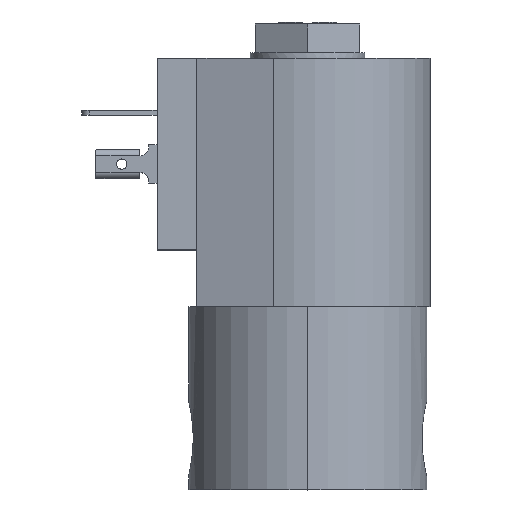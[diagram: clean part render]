
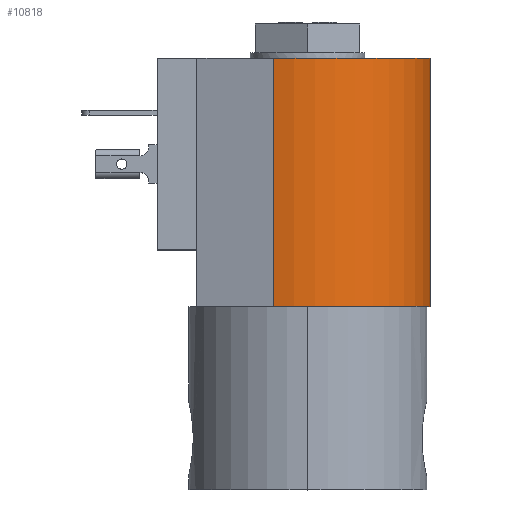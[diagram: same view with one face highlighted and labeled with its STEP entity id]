
A CAD part, top view. The second image highlights one B-rep face of the part: STEP entity #10818.
In plain terms, the highlighted cylindrical face has radius 20.32 mm (diameter 40.64 mm), a partial arc.
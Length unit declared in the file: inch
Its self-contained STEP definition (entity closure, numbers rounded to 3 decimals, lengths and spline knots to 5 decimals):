
#986 = CARTESIAN_POINT ( 'NONE',  ( -0.22081, 2.815, 0.76892 ) ) ;
#1030 = ORIENTED_EDGE ( 'NONE', *, *, #1945, .T. ) ;
#1787 = CARTESIAN_POINT ( 'NONE',  ( -0.22081, 1.195, 0.76892 ) ) ;
#1945 = EDGE_CURVE ( 'Defeatured_0_32+Defeatured_0_31+Defeatured_0_0+Defeatured_0_34', #8199, #8000, #9528, .T. ) ;
#2304 = EDGE_CURVE ( 'NONE', #6406, #13379, #9909, .T. ) ;
#3604 = DIRECTION ( 'NONE',  ( 0., 1., 0. ) ) ;
#3671 = CIRCLE ( 'NONE', #8905, 0.8 ) ;
#4420 = CIRCLE ( 'NONE', #12347, 0.8 ) ;
#4595 = CARTESIAN_POINT ( 'NONE',  ( 0.8, 2.815, 0. ) ) ;
#5140 = DIRECTION ( 'NONE',  ( 0., -1., 0. ) ) ;
#6406 = VERTEX_POINT ( 'NONE', #6631 ) ;
#6436 = FACE_OUTER_BOUND ( 'NONE', #11513, .T. ) ;
#6631 = CARTESIAN_POINT ( 'NONE',  ( 0.8, 2.815, 0. ) ) ;
#6728 = DIRECTION ( 'NONE',  ( -1., 0., 0. ) ) ;
#7259 = CARTESIAN_POINT ( 'NONE',  ( -0.22081, 2.815, 0.76892 ) ) ;
#7648 = DIRECTION ( 'NONE',  ( 0., 1., 0. ) ) ;
#8000 = VERTEX_POINT ( 'NONE', #1787 ) ;
#8199 = VERTEX_POINT ( 'NONE', #986 ) ;
#8288 = EDGE_CURVE ( 'Defeatured_0_0+Defeatured_0_32+Defeatured_0_31+Defeatured_0_33', #8199, #6406, #3671, .T. ) ;
#8302 = DIRECTION ( 'NONE',  ( 1., 0., 0. ) ) ;
#8507 = EDGE_CURVE ( 'Defeatured_0_32+Defeatured_0_34+Defeatured_0_31+Defeatured_0_33', #8000, #13379, #4420, .T. ) ;
#8788 = DIRECTION ( 'NONE',  ( 0., -1., 0. ) ) ;
#8905 = AXIS2_PLACEMENT_3D ( 'NONE', #10758, #7648, #13092 ) ;
#8952 = VECTOR ( 'NONE', #8788, 39.37008 ) ;
#9528 = LINE ( 'NONE', #7259, #13673 ) ;
#9628 = CARTESIAN_POINT ( 'NONE',  ( 0.8, 1.195, 0. ) ) ;
#9632 = CARTESIAN_POINT ( 'NONE',  ( 0., 2.815, 0. ) ) ;
#9909 = LINE ( 'NONE', #4595, #8952 ) ;
#10423 = ORIENTED_EDGE ( 'NONE', *, *, #8288, .F. ) ;
#10479 = CYLINDRICAL_SURFACE ( 'NONE', #13026, 0.8 ) ;
#10758 = CARTESIAN_POINT ( 'NONE',  ( 0., 2.815, 0. ) ) ;
#10818 = ADVANCED_FACE ( 'Defeatured_0_32', ( #6436 ), #10479, .T. ) ;
#11169 = ORIENTED_EDGE ( 'NONE', *, *, #8507, .T. ) ;
#11513 = EDGE_LOOP ( 'NONE', ( #11849, #10423, #1030, #11169 ) ) ;
#11849 = ORIENTED_EDGE ( 'NONE', *, *, #2304, .F. ) ;
#12347 = AXIS2_PLACEMENT_3D ( 'NONE', #13316, #3604, #6728 ) ;
#13026 = AXIS2_PLACEMENT_3D ( 'NONE', #9632, #13945, #8302 ) ;
#13092 = DIRECTION ( 'NONE',  ( -1., 0., 0. ) ) ;
#13316 = CARTESIAN_POINT ( 'NONE',  ( 0., 1.195, 0. ) ) ;
#13379 = VERTEX_POINT ( 'NONE', #9628 ) ;
#13673 = VECTOR ( 'NONE', #5140, 39.37008 ) ;
#13945 = DIRECTION ( 'NONE',  ( 0., -1., 0. ) ) ;
